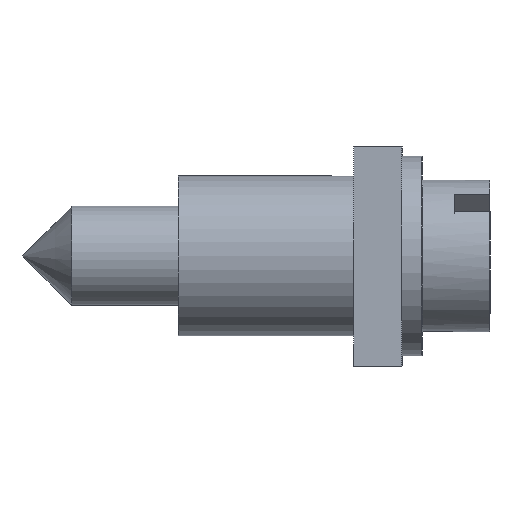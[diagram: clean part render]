
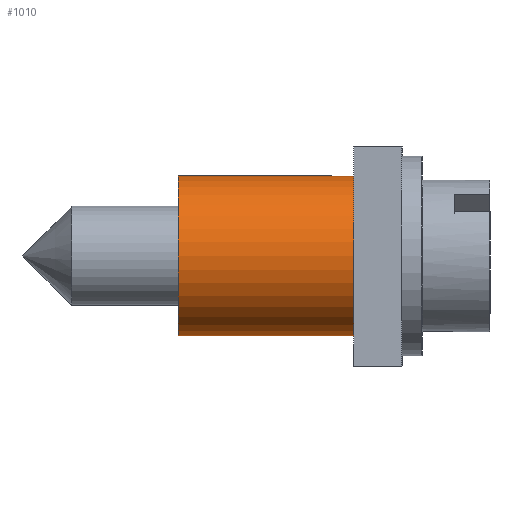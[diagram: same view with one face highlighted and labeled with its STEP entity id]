
A CAD part, left-side view. The second image highlights one B-rep face of the part: STEP entity #1010.
In plain terms, the highlighted cylindrical face has radius 2 mm (diameter 4 mm), a full revolution.
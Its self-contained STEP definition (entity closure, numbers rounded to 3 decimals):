
#1010=ADVANCED_FACE('',(#1553,#1555),#1557,.T.);
#1553=FACE_OUTER_BOUND('',#1554,.T.);
#1554=EDGE_LOOP('',(#1987));
#1555=FACE_OUTER_BOUND('',#1556,.T.);
#1556=EDGE_LOOP('',(#1988));
#1557=CYLINDRICAL_SURFACE('',#1558,2.);
#1558=AXIS2_PLACEMENT_3D('',#1559,#1560,#1561);
#1559=CARTESIAN_POINT('',(0.,0.,4.4));
#1560=DIRECTION('',(0.,0.,-1.));
#1561=DIRECTION('',(-1.,0.,0.));
#1987=ORIENTED_EDGE('',*,*,#2169,.T.);
#1988=ORIENTED_EDGE('',*,*,#2170,.F.);
#2169=EDGE_CURVE('',#2408,#2408,#2409,.T.);
#2170=EDGE_CURVE('',#2410,#2410,#2411,.T.);
#2408=VERTEX_POINT('',#2934);
#2409=CIRCLE('',#2935,2.);
#2410=VERTEX_POINT('',#2939);
#2411=CIRCLE('',#2940,2.);
#2934=CARTESIAN_POINT('',(-2.,0.,4.4));
#2935=AXIS2_PLACEMENT_3D('',#2936,#2937,#2938);
#2936=CARTESIAN_POINT('',(0.,0.,4.4));
#2937=DIRECTION('',(0.,0.,-1.));
#2938=DIRECTION('',(-1.,0.,0.));
#2939=CARTESIAN_POINT('',(-2.,0.,0.));
#2940=AXIS2_PLACEMENT_3D('',#2941,#2942,#2943);
#2941=CARTESIAN_POINT('',(0.,0.,0.));
#2942=DIRECTION('',(0.,0.,-1.));
#2943=DIRECTION('',(-1.,0.,0.));
